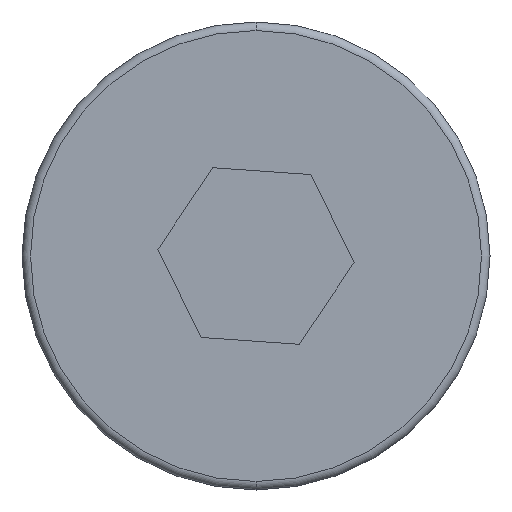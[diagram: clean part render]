
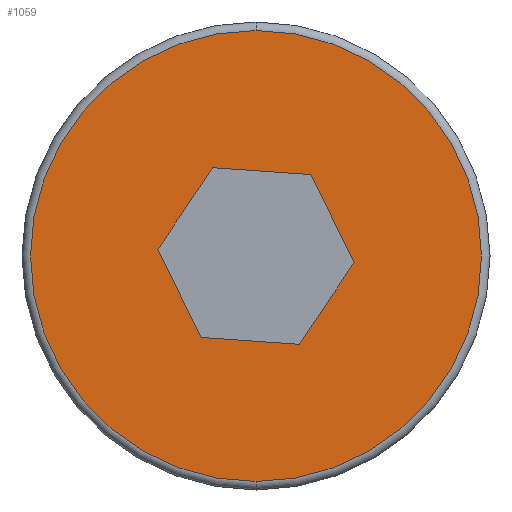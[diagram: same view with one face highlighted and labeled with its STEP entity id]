
A CAD part, front view. The second image highlights one B-rep face of the part: STEP entity #1059.
In plain terms, the highlighted planar face has unit normal (0, -1, 0).
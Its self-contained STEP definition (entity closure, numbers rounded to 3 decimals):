
#81 = ORIENTED_EDGE ( 'NONE', *, *, #1725, .T. ) ;
#138 = VERTEX_POINT ( 'NONE', #250 ) ;
#188 = DIRECTION ( 'NONE',  ( 0., 0., -1. ) ) ;
#190 = ORIENTED_EDGE ( 'NONE', *, *, #2426, .F. ) ;
#195 = VERTEX_POINT ( 'NONE', #1962 ) ;
#198 = VECTOR ( 'NONE', #1692, 1000. ) ;
#233 = AXIS2_PLACEMENT_3D ( 'NONE', #796, #485, #188 ) ;
#250 = CARTESIAN_POINT ( 'NONE',  ( 0., 0., -5.3 ) ) ;
#264 = CARTESIAN_POINT ( 'NONE',  ( 0., 0., 0. ) ) ;
#267 = LINE ( 'NONE', #2632, #2739 ) ;
#275 = VERTEX_POINT ( 'NONE', #985 ) ;
#279 = EDGE_LOOP ( 'NONE', ( #81, #2593 ) ) ;
#411 = CIRCLE ( 'NONE', #233, 5.3 ) ;
#440 = EDGE_CURVE ( 'NONE', #2548, #2238, #2007, .T. ) ;
#448 = CARTESIAN_POINT ( 'NONE',  ( 1.012, 0., -2.076 ) ) ;
#485 = DIRECTION ( 'NONE',  ( 0., -1., 0. ) ) ;
#732 = ORIENTED_EDGE ( 'NONE', *, *, #752, .F. ) ;
#752 = EDGE_CURVE ( 'NONE', #2640, #275, #2091, .T. ) ;
#796 = CARTESIAN_POINT ( 'NONE',  ( 0., 0., 0. ) ) ;
#805 = DIRECTION ( 'NONE',  ( 0., 0., -1. ) ) ;
#824 = EDGE_CURVE ( 'NONE', #275, #2459, #267, .T. ) ;
#907 = EDGE_LOOP ( 'NONE', ( #732, #190, #1578, #2387, #1526, #2332 ) ) ;
#922 = FACE_BOUND ( 'NONE', #907, .T. ) ;
#985 = CARTESIAN_POINT ( 'NONE',  ( 2.304, 0., -0.161 ) ) ;
#1059 = ADVANCED_FACE ( 'NONE', ( #922, #1300 ), #2286, .T. ) ;
#1104 = DIRECTION ( 'NONE',  ( 0., -1., 0. ) ) ;
#1199 = CARTESIAN_POINT ( 'NONE',  ( -2.304, 0., 0.161 ) ) ;
#1300 = FACE_OUTER_BOUND ( 'NONE', #279, .T. ) ;
#1346 = VECTOR ( 'NONE', #1830, 1000. ) ;
#1378 = DIRECTION ( 'NONE',  ( 0., 0., -1. ) ) ;
#1399 = DIRECTION ( 'NONE',  ( 0.438, 0., -0.899 ) ) ;
#1454 = AXIS2_PLACEMENT_3D ( 'NONE', #1984, #1672, #1378 ) ;
#1482 = DIRECTION ( 'NONE',  ( 0.559, 0., 0.829 ) ) ;
#1507 = EDGE_CURVE ( 'NONE', #2459, #2859, #2446, .T. ) ;
#1526 = ORIENTED_EDGE ( 'NONE', *, *, #1507, .F. ) ;
#1578 = ORIENTED_EDGE ( 'NONE', *, *, #440, .F. ) ;
#1672 = DIRECTION ( 'NONE',  ( 0., -1., 0. ) ) ;
#1676 = EDGE_CURVE ( 'NONE', #2859, #2548, #2629, .T. ) ;
#1692 = DIRECTION ( 'NONE',  ( 0.998, 0., -0.07 ) ) ;
#1694 = CARTESIAN_POINT ( 'NONE',  ( -2.304, 0., 0.161 ) ) ;
#1725 = EDGE_CURVE ( 'NONE', #138, #195, #2784, .T. ) ;
#1779 = CARTESIAN_POINT ( 'NONE',  ( 1.012, 0., -2.076 ) ) ;
#1830 = DIRECTION ( 'NONE',  ( -0.998, 0., 0.07 ) ) ;
#1962 = CARTESIAN_POINT ( 'NONE',  ( 0., 0., 5.3 ) ) ;
#1984 = CARTESIAN_POINT ( 'NONE',  ( 5.5, 0., 0. ) ) ;
#2005 = CARTESIAN_POINT ( 'NONE',  ( -1.291, 0., -1.915 ) ) ;
#2007 = LINE ( 'NONE', #1694, #2370 ) ;
#2016 = DIRECTION ( 'NONE',  ( -0.559, 0., -0.829 ) ) ;
#2091 = LINE ( 'NONE', #1779, #2421 ) ;
#2099 = CARTESIAN_POINT ( 'NONE',  ( -1.291, 0., -1.915 ) ) ;
#2126 = AXIS2_PLACEMENT_3D ( 'NONE', #264, #1104, #805 ) ;
#2137 = CARTESIAN_POINT ( 'NONE',  ( 1.291, 0., 1.915 ) ) ;
#2238 = VERTEX_POINT ( 'NONE', #2099 ) ;
#2286 = PLANE ( 'NONE',  #1454 ) ;
#2306 = LINE ( 'NONE', #2005, #198 ) ;
#2317 = CARTESIAN_POINT ( 'NONE',  ( -1.012, 0., 2.076 ) ) ;
#2321 = DIRECTION ( 'NONE',  ( -0.438, 0., 0.899 ) ) ;
#2332 = ORIENTED_EDGE ( 'NONE', *, *, #824, .F. ) ;
#2370 = VECTOR ( 'NONE', #1399, 1000. ) ;
#2387 = ORIENTED_EDGE ( 'NONE', *, *, #1676, .F. ) ;
#2397 = CARTESIAN_POINT ( 'NONE',  ( 1.291, 0., 1.915 ) ) ;
#2421 = VECTOR ( 'NONE', #1482, 1000. ) ;
#2426 = EDGE_CURVE ( 'NONE', #2238, #2640, #2306, .T. ) ;
#2446 = LINE ( 'NONE', #2137, #1346 ) ;
#2459 = VERTEX_POINT ( 'NONE', #2397 ) ;
#2513 = VECTOR ( 'NONE', #2016, 1000. ) ;
#2546 = CARTESIAN_POINT ( 'NONE',  ( -1.012, 0., 2.076 ) ) ;
#2548 = VERTEX_POINT ( 'NONE', #1199 ) ;
#2593 = ORIENTED_EDGE ( 'NONE', *, *, #2837, .T. ) ;
#2629 = LINE ( 'NONE', #2317, #2513 ) ;
#2632 = CARTESIAN_POINT ( 'NONE',  ( 2.304, 0., -0.161 ) ) ;
#2640 = VERTEX_POINT ( 'NONE', #448 ) ;
#2739 = VECTOR ( 'NONE', #2321, 1000. ) ;
#2784 = CIRCLE ( 'NONE', #2126, 5.3 ) ;
#2837 = EDGE_CURVE ( 'NONE', #195, #138, #411, .T. ) ;
#2859 = VERTEX_POINT ( 'NONE', #2546 ) ;
